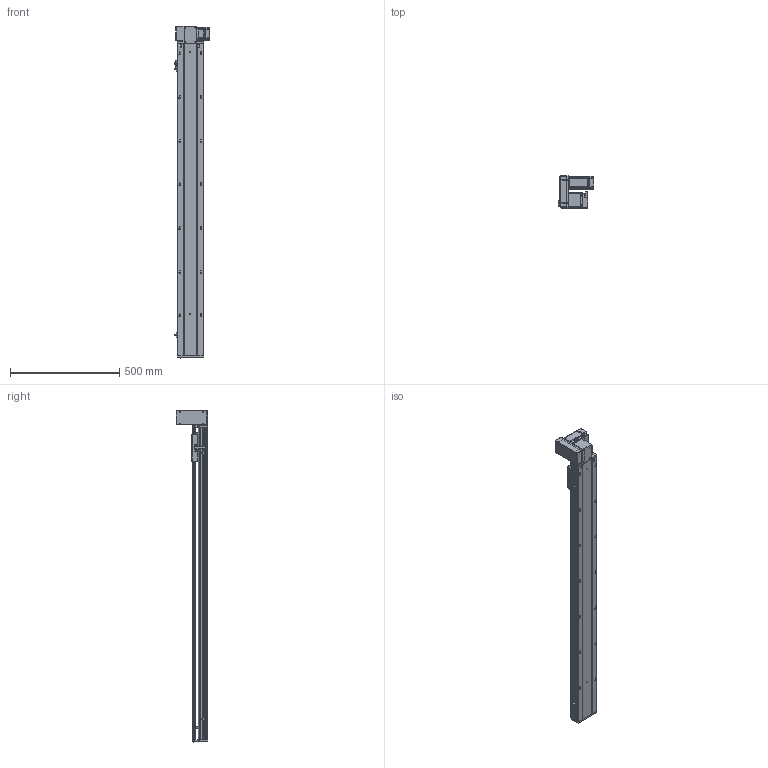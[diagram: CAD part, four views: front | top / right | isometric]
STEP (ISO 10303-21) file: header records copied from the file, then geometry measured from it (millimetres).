
FILE_DESCRIPTION (( 'STEP AP203' ), '1' );
FILE_NAME ('RY120-T-300-UL.SLDASM_1200.step', '2021-03-01T05:36:32', ( '盈信电脑' ), ( '东莞市道滘镇水果街19号' ), 'SwSTEP 2.0', 'SolidWorks 2012', '' );
FILE_SCHEMA (( 'CONFIG_CONTROL_DESIGN' ));
Products named in the file (18): RY120-T肮祭湍揤踡輸2; RY120-T翋肮祭盓傅釱; RY120-T萇儂假蚾啣; RY120-T肮祭湍揤踡輸1; RY120綴裔啣; 覜茼ん672; RY120外置感应片(140共用）; RY120肮祭湍臏賑輸; RY120-T-300-UL倰第菁釱_1200; RY120-T-300-UL倰第奻裔啣_1200; 侂狟400W侜督萇儂; RY120-T主同步轮轴承压盖; 15; RY120-T翋肮祭謫裔啣; RY120-T蹟翐M4; RY120-T-300-UL.SLDASM_1200; RY120-T萇儂欶; 滅袉蝶18-10
Assembly tree (23 placements, depth 3):
  RY120-T-300-UL.SLDASM_1200
    RY120-T-300-UL倰第菁釱_1200
    RY120-T-300-UL倰第奻裔啣_1200
    RY120肮祭湍臏賑輸
    RY120綴裔啣
    覜茼ん672  x3
    RY120外置感应片(140共用）
    RY120-T肮祭湍揤踡輸1
    RY120-T肮祭湍揤踡輸2
    RY120-T翋肮祭盓傅釱
    RY120-T萇儂假蚾啣
    侂狟400W侜督萇儂
      15
    RY120-T主同步轮轴承压盖
    滅袉蝶18-10  x2
    RY120-T萇儂欶
    RY120-T蹟翐M4  x4
    RY120-T翋肮祭謫裔啣
Bounding box: 164.2 x 146 x 1521 mm (x, y, z)
Volume: 4056572.9 mm3; surface area: 1523750 mm2
Topology: 23 solids, 23 shells, 2844 faces, 7740 edges, 4950 vertices
Faces by surface type: plane 1412, cylinder 1078, cone 265, bspline 89
Entity records: 90242 total; most frequent: CARTESIAN_POINT 22766, ORIENTED_EDGE 13872, DIRECTION 13186, EDGE_CURVE 6936, VERTEX_POINT 4537, AXIS2_PLACEMENT_3D 4425, LINE 4336, VECTOR 4336
